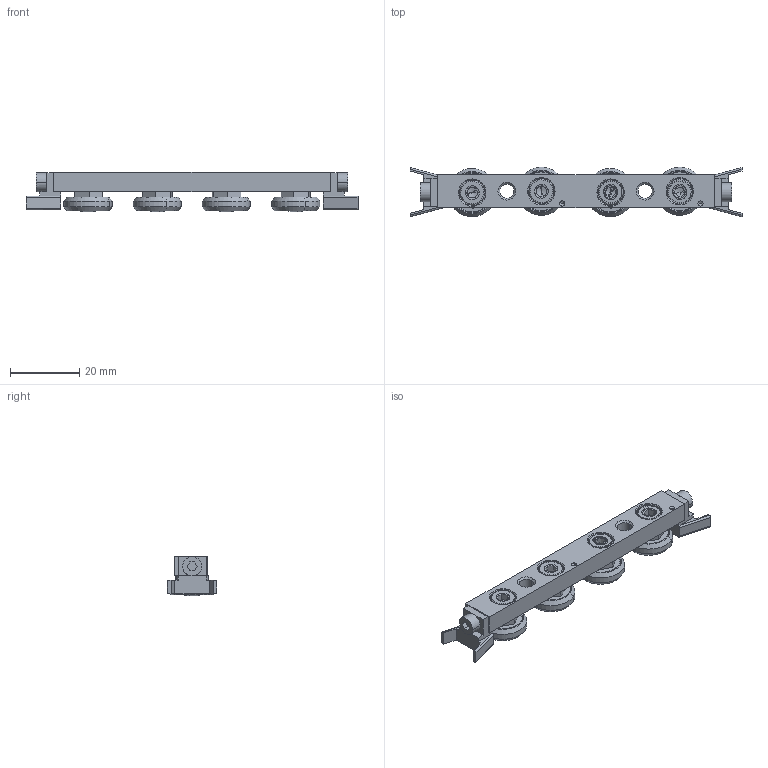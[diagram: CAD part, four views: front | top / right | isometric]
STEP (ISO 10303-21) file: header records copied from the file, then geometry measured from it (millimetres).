
FILE_DESCRIPTION (( 'STEP AP203' ), '1' );
FILE_NAME ('L1918.CSW18-80-2ZUA.step', '2019-06-29T22:02:28', ( '' ), ( '' ), 'SwSTEP 2.0', 'SolidWorks 2017', '' );
FILE_SCHEMA (( 'CONFIG_CONTROL_DESIGN' ));
Length unit declared in the file: millimetre
Products named in the file (6): L1918.CSW18-80-2ZUA; Part2; Part3; Part8; Part7; Part1_L1918.CSW18-80-2ZUA
Assembly tree (15 placements, depth 2):
  L1918.CSW18-80-2ZUA
    Part1_L1918.CSW18-80-2ZUA
    Part8  x8
    Part2  x2
    Part3  x2
    Part7  x2
Bounding box: 96 x 14.32 x 11.54 mm (x, y, z)
Volume: 7554.4 mm3; surface area: 7614.6 mm2
Topology: 15 solids, 15 shells, 456 faces, 1056 edges, 646 vertices
Faces by surface type: plane 236, cone 116, cylinder 80, torus 24
Entity records: 6417 total; most frequent: CARTESIAN_POINT 1041, DIRECTION 1004, ORIENTED_EDGE 868, EDGE_CURVE 434, AXIS2_PLACEMENT_3D 381, VERTEX_POINT 277, VECTOR 242, LINE 242
